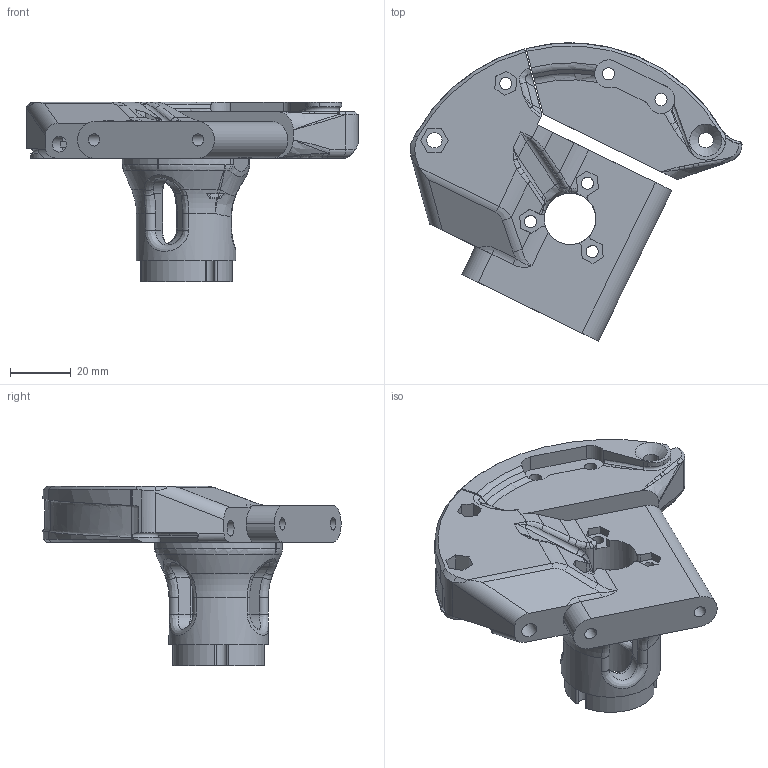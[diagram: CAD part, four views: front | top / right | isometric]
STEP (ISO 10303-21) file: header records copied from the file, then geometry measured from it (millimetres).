
FILE_DESCRIPTION(/* description */ ('CAx-IF Rec.Pracs.---Representation and Presentation of Product Manufacturing Information (PMI)---4.0---2014-10-13','CAx-IF Rec.Pracs.---3D Tessellated Geometry---0.4---2014-09-14','2;1'),/* implementation_level */ '2;1');
FILE_NAME(/* name */ 'qc1_p53_big_reel_abad',/* time_stamp */ '2026-07-26T02:34:18+03:00',/* author */ (''),/* organization */ (''),/* preprocessor_version */ 'ST-DEVELOPER v19.4',/* originating_system */ 'SIEMENS PLM Software NX2306.1700',/* authorisation */ $);
FILE_SCHEMA (('AP242_MANAGED_MODEL_BASED_3D_ENGINEERING_MIM_LF { 1 0 10303 442 3 1 4 }'));
Length unit declared in the file: millimetre
Products named in the file (1): qc1_p53_big_reel_abad
Bounding box: 109.14 x 98.04 x 59.05 mm (x, y, z)
Volume: 99973 mm3; surface area: 34774.8 mm2
Topology: 3 solids, 3 shells, 418 faces, 1154 edges, 731 vertices
Faces by surface type: plane 160, cylinder 125, bspline 107, torus 12, cone 9, sphere 5
Full cylindrical faces by diameter (mm): 3.99 x3, 4.01 x10, 5.01 x2, 5.2 x1, 17 x1, 32.7 x1
Entity records: 15837 total; most frequent: CARTESIAN_POINT 6073, ORIENTED_EDGE 2220, DIRECTION 1755, EDGE_CURVE 1110, VERTEX_POINT 717, AXIS2_PLACEMENT_3D 636, LINE 483, VECTOR 483
